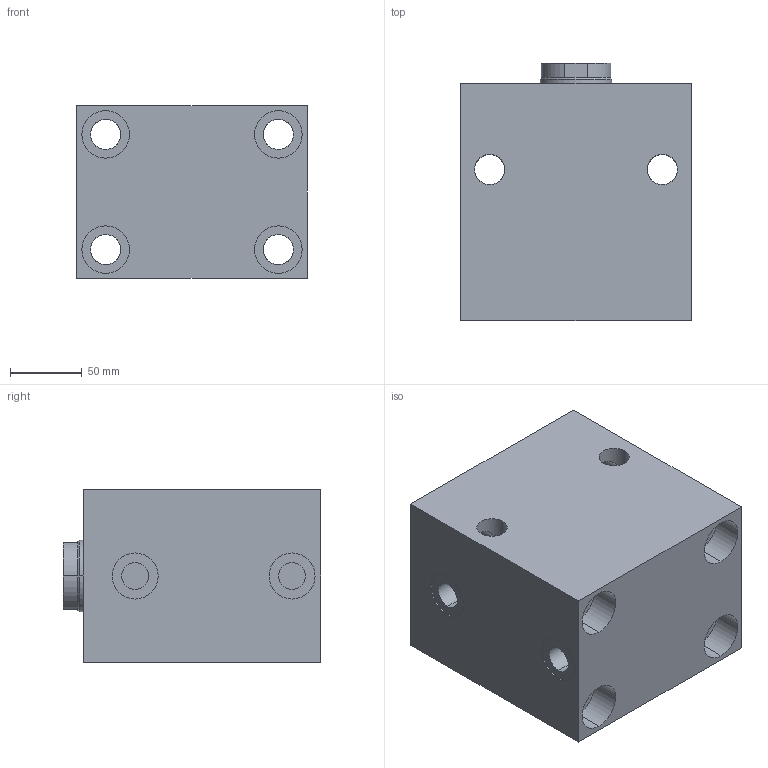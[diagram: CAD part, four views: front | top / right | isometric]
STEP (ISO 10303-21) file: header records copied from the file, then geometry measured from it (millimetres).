
FILE_DESCRIPTION (( 'STEP AP203' ), '1' );
FILE_NAME ('GERMA_Blockzylinder_600-080-080.STEP', '2015-10-09T08:47:17', ( '' ), ( '' ), 'SwSTEP 2.0', 'SolidWorks 2015', '' );
FILE_SCHEMA (( 'CONFIG_CONTROL_DESIGN' ));
Length unit declared in the file: millimetre
Products named in the file (3): GH-600-080_GH-600-080-080; Kolben 60x-080_Kolben DU.80-Hub80-IG; GERMA_Blockzylinder_600-080-080
Assembly tree (2 placements, depth 2):
  GERMA_Blockzylinder_600-080-080
    GH-600-080_GH-600-080-080
    Kolben 60x-080_Kolben DU.80-Hub80-IG
Bounding box: 160 x 179 x 120 mm (x, y, z)
Volume: 2537717.3 mm3; surface area: 270366.3 mm2
Topology: 2 solids, 2 shells, 117 faces, 268 edges, 162 vertices
Faces by surface type: cylinder 73, plane 30, cone 14
Entity records: 3602 total; most frequent: CARTESIAN_POINT 642, DIRECTION 599, ORIENTED_EDGE 524, EDGE_CURVE 262, AXIS2_PLACEMENT_3D 247, VERTEX_POINT 162, EDGE_LOOP 150, CIRCLE 125
